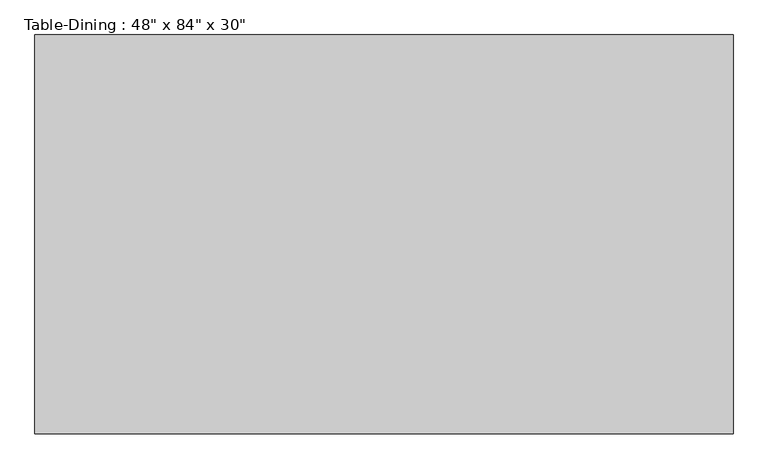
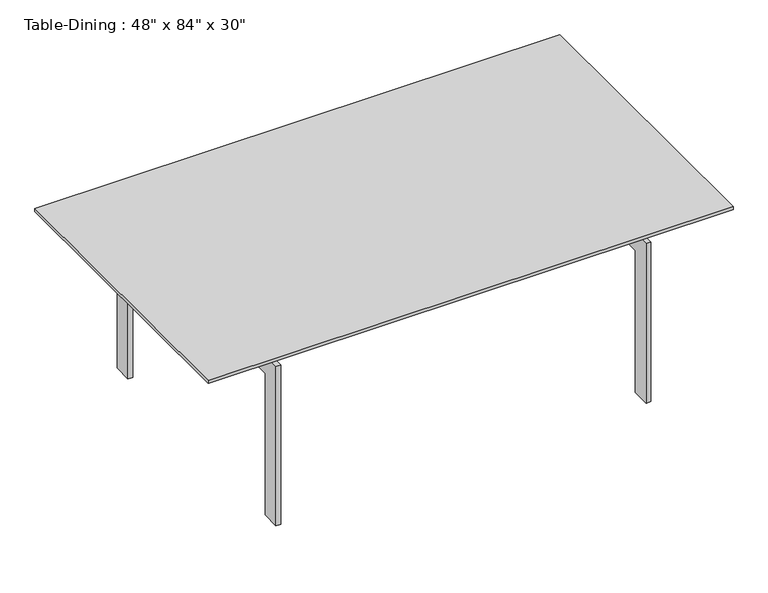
"""IFC4 building model written with IfcOpenShell, lengths in millimetres: furniture geometry."""

from ifc_helpers import new_model, si_unit, frame, origin, place, context, project, spatial, polyline, outline, extrude, source, transform, mapped, element, save


def furniture_c1a6d451(model_context):
    return source(origin(), model_context, "Body", "SweptSolid", [
        extrude(outline(polyline([(983.4657667, 297.7823857), (983.4657667, 272.3823857), (-946.9342333, 272.3823857), (-946.9342333, 297.7823857), (983.4657667, 297.7823857)])), frame((0.0, 0.0, 685.8), z_axis=(0.0, 0.0, 1.0), x_axis=(1.0, 0.0, 0.0)), (0.0, 0.0, 1.0), 63.5),
        extrude(outline(polyline([(983.4657667, -82.5889222), (983.4657667, -107.9889222), (-946.9342333, -107.9889222), (-946.9342333, -82.5889222), (983.4657667, -82.5889222)])), frame((0.0, 0.0, 685.8), z_axis=(0.0, 0.0, 1.0), x_axis=(1.0, 0.0, 0.0)), (0.0, 0.0, 1.0), 63.5),
        extrude(outline(polyline([(654.0110778, 0.0), (577.8110778, 0.0), (577.8110778, 609.6), (-387.3889222, 609.6), (-387.3889222, 0.0), (-463.5889222, 0.0), (-463.5889222, 685.8), (654.0110778, 685.8), (654.0110778, 0.0)])), frame((761.2157667, 0.0, 0.0), z_axis=(1.0, 0.0, 0.0), x_axis=(0.0, 1.0, 0.0)), (0.0, 0.0, 1.0), 19.05),
        extrude(outline(polyline([(654.0110778, 685.8), (654.0110778, 0.0), (577.8110778, 0.0), (577.8110778, 609.6), (-387.3889222, 609.6), (-387.3889222, 0.0), (-463.5889222, 0.0), (-463.5889222, 685.8), (654.0110778, 685.8)])), frame((-743.7342333, 0.0, 0.0), z_axis=(1.0, 0.0, 0.0), x_axis=(0.0, 1.0, 0.0)), (0.0, 0.0, 1.0), 19.05),
        extrude(outline(polyline([(1085.0657667, 704.8110778), (1085.0657667, -514.3889222), (-1048.5342333, -514.3889222), (-1048.5342333, 704.8110778), (1085.0657667, 704.8110778)])), frame((0.0, 0.0, 749.3), z_axis=(0.0, 0.0, 1.0), x_axis=(1.0, 0.0, 0.0)), (0.0, 0.0, 1.0), 12.7),
    ])


if __name__ == "__main__":
    model = new_model("IFC4")
    model_context = context("Model", 3, world=origin())
    ifc_project = project(units=[si_unit("LENGTHUNIT", "METRE", prefix="MILLI")], contexts=[model_context])
    site = spatial("IfcSite", under=ifc_project)
    building = spatial("IfcBuilding", under=site)
    placement = place(None, origin())
    furniture_shape = furniture_c1a6d451(model_context)
    element("IfcFurniture", 1, ObjectType="Table-Dining : 48\" x 84\" x 30\"", at=placement, inside=building, context=model_context, shape_type="MappedRepresentation", body=[
        mapped(furniture_shape, transform((0.0, 0.0, 0.0), x_axis=(1.0, 0.0, 0.0), y_axis=(0.0, 1.0, 0.0), z_axis=(0.0, 0.0, 1.0))),
    ])
    save(model, "model.ifc")
